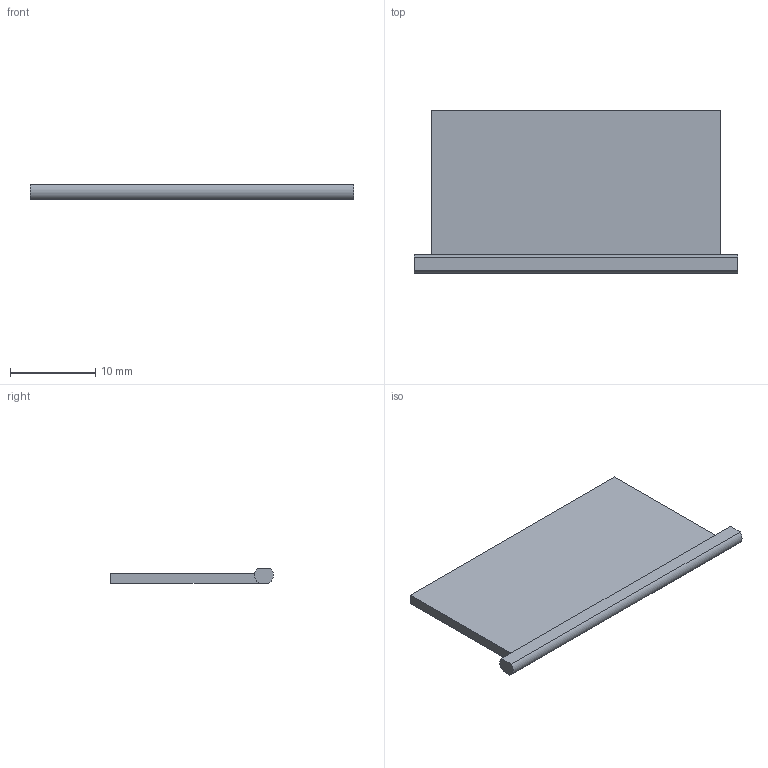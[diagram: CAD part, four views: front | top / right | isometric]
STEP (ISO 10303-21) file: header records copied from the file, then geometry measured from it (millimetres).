
FILE_DESCRIPTION(('Open CASCADE Model'),'2;1');
FILE_NAME('FM_43_panel','2026-11-05T16:12:33',('Author'),('Open CASCADE' ),'Open CASCADE STEP processor 7.9','build123d','Unknown');
FILE_SCHEMA(('AUTOMOTIVE_DESIGN { 1 0 10303 214 1 1 1 1 }'));
Length unit declared in the file: millimetre
Products named in the file (2): FM_43_panel
Assembly tree (1 placements, depth 2):
  FM_43_panel
    FM_43_panel
Bounding box: 38 x 19.1 x 1.7 mm (x, y, z)
Volume: 820.1 mm3; surface area: 1462.6 mm2
Topology: 1 solids, 1 shells, 10 faces, 24 edges, 16 vertices
Faces by surface type: plane 8, cylinder 2
Entity records: 655 total; most frequent: CARTESIAN_POINT 112, DIRECTION 95, LINE 54, VECTOR 54, ORIENTED_EDGE 48, PCURVE 48, DEFINITIONAL_REPRESENTATION 48, EDGE_CURVE 24
